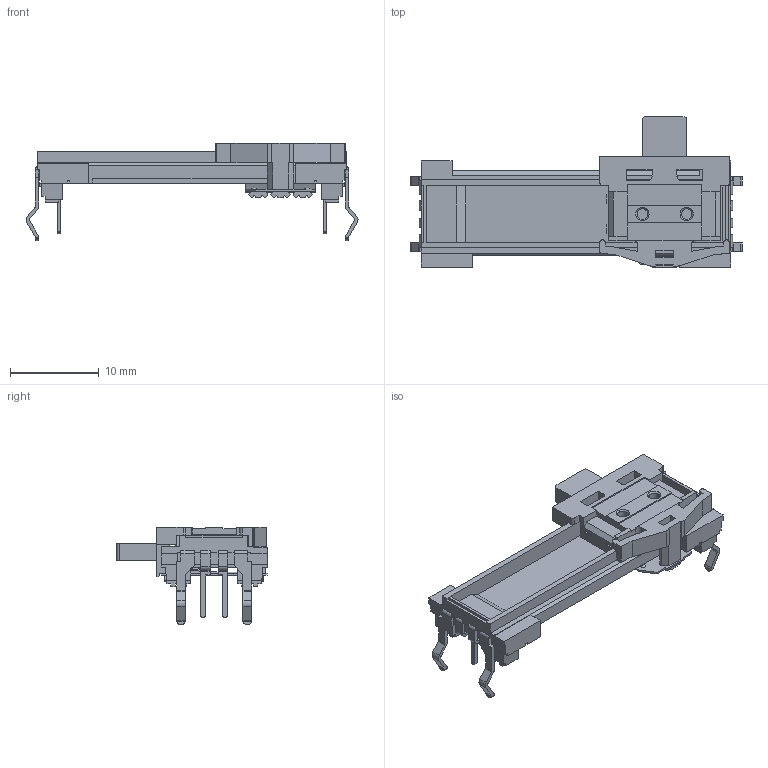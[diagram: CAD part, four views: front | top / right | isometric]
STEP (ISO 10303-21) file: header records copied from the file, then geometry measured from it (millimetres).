
FILE_DESCRIPTION (( 'STEP AP214' ), '1' );
FILE_NAME ('RS20H11AA-noCC.STEP', '2012-02-21T05:54:57', ( '' ), ( '' ), 'SwSTEP 2.0', 'SolidWorks 2010', '' );
FILE_SCHEMA (( 'AUTOMOTIVE_DESIGN' ));
Length unit declared in the file: millimetre
Products named in the file (1): RS20H11AA-noCC
Bounding box: 37.5 x 17 x 11 mm (x, y, z)
Volume: 1137.5 mm3; surface area: 2157.8 mm2
Topology: 1 solids, 1 shells, 728 faces, 2030 edges, 1293 vertices
Faces by surface type: plane 572, cylinder 142, sphere 8, cone 4, bspline 2
Entity records: 30959 total; most frequent: CARTESIAN_POINT 4260, ORIENTED_EDGE 4052, DIRECTION 3694, EDGE_CURVE 2026, VECTOR 1700, LINE 1700, VERTEX_POINT 1293, AXIS2_PLACEMENT_3D 997
